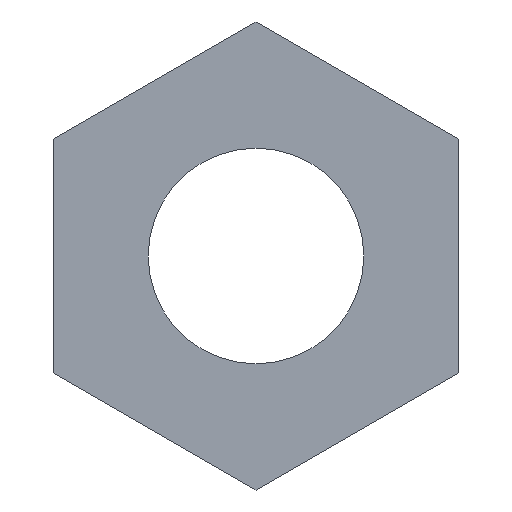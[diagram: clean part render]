
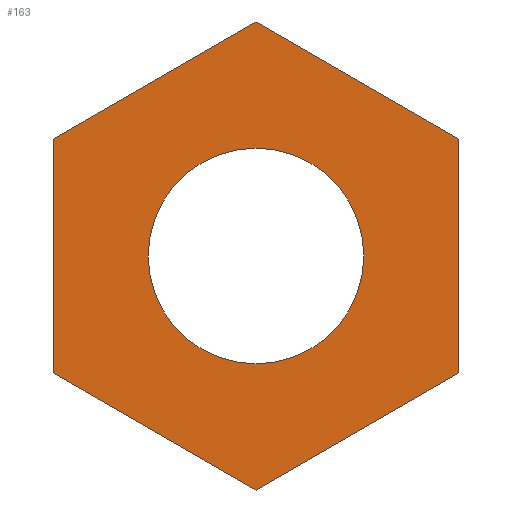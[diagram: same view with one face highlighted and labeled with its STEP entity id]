
A CAD part, front view. The second image highlights one B-rep face of the part: STEP entity #163.
In plain terms, the highlighted planar face has unit normal (0, -1, 0).
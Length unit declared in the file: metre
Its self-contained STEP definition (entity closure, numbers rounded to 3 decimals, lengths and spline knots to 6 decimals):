
#13=CIRCLE('',#186,0.00211);
#39=ORIENTED_EDGE('',*,*,#73,.F.);
#40=ORIENTED_EDGE('',*,*,#57,.T.);
#41=ORIENTED_EDGE('',*,*,#61,.T.);
#42=ORIENTED_EDGE('',*,*,#64,.T.);
#43=ORIENTED_EDGE('',*,*,#67,.T.);
#44=ORIENTED_EDGE('',*,*,#70,.T.);
#45=ORIENTED_EDGE('',*,*,#72,.T.);
#57=EDGE_CURVE('',#78,#77,#91,.T.);
#61=EDGE_CURVE('',#77,#80,#95,.T.);
#64=EDGE_CURVE('',#80,#82,#98,.T.);
#67=EDGE_CURVE('',#82,#84,#101,.T.);
#70=EDGE_CURVE('',#84,#86,#104,.T.);
#72=EDGE_CURVE('',#86,#78,#106,.T.);
#73=EDGE_CURVE('',#87,#87,#13,.T.);
#77=VERTEX_POINT('',#238);
#78=VERTEX_POINT('',#240);
#80=VERTEX_POINT('',#246);
#82=VERTEX_POINT('',#252);
#84=VERTEX_POINT('',#258);
#86=VERTEX_POINT('',#264);
#87=VERTEX_POINT('',#271);
#91=LINE('',#239,#109);
#95=LINE('',#247,#113);
#98=LINE('',#253,#116);
#101=LINE('',#259,#119);
#104=LINE('',#265,#122);
#106=LINE('',#268,#124);
#109=VECTOR('',#196,1.);
#113=VECTOR('',#202,1.);
#116=VECTOR('',#207,1.);
#119=VECTOR('',#212,1.);
#122=VECTOR('',#217,1.);
#124=VECTOR('',#221,1.);
#131=EDGE_LOOP('',(#39));
#132=EDGE_LOOP('',(#40,#41,#42,#43,#44,#45));
#143=FACE_BOUND('',#131,.T.);
#144=FACE_BOUND('',#132,.T.);
#155=PLANE('',#185);
#163=ADVANCED_FACE('',(#143,#144),#155,.T.);
#185=AXIS2_PLACEMENT_3D('',#269,#222,#223);
#186=AXIS2_PLACEMENT_3D('',#270,#224,#225);
#196=DIRECTION('',(0.866,0.,0.5));
#202=DIRECTION('',(0.,0.,1.));
#207=DIRECTION('',(-0.866,0.,0.5));
#212=DIRECTION('',(-0.866,0.,-0.5));
#217=DIRECTION('',(0.,0.,-1.));
#221=DIRECTION('',(0.866,0.,-0.5));
#222=DIRECTION('',(0.,-1.,0.));
#223=DIRECTION('',(1.,0.,0.));
#224=DIRECTION('',(0.,-1.,0.));
#225=DIRECTION('',(0.,0.,-1.));
#238=CARTESIAN_POINT('',(0.003965,0.01606,-0.002289));
#239=CARTESIAN_POINT('',(0.001983,0.01606,-0.003434));
#240=CARTESIAN_POINT('',(0.,0.01606,-0.004578));
#246=CARTESIAN_POINT('',(0.003965,0.01606,0.002289));
#247=CARTESIAN_POINT('',(0.003965,0.01606,0.));
#252=CARTESIAN_POINT('',(0.,0.01606,0.004578));
#253=CARTESIAN_POINT('',(0.001983,0.01606,0.003434));
#258=CARTESIAN_POINT('',(-0.003965,0.01606,0.002289));
#259=CARTESIAN_POINT('',(-0.001983,0.01606,0.003434));
#264=CARTESIAN_POINT('',(-0.003965,0.01606,-0.002289));
#265=CARTESIAN_POINT('',(-0.003965,0.01606,0.));
#268=CARTESIAN_POINT('',(-0.001983,0.01606,-0.003434));
#269=CARTESIAN_POINT('',(0.,0.01606,0.));
#270=CARTESIAN_POINT('',(0.,0.01606,0.));
#271=CARTESIAN_POINT('',(0.,0.01606,-0.00211));
